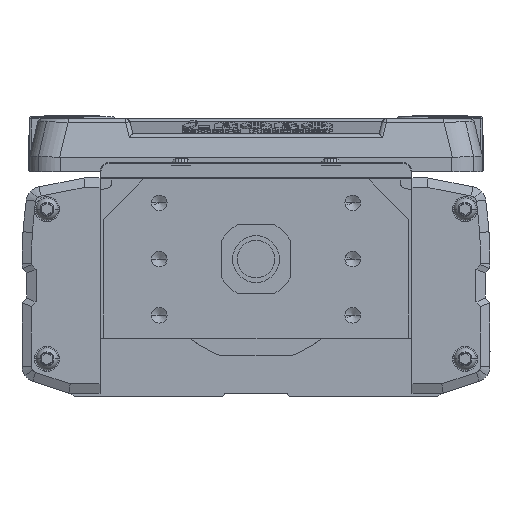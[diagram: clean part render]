
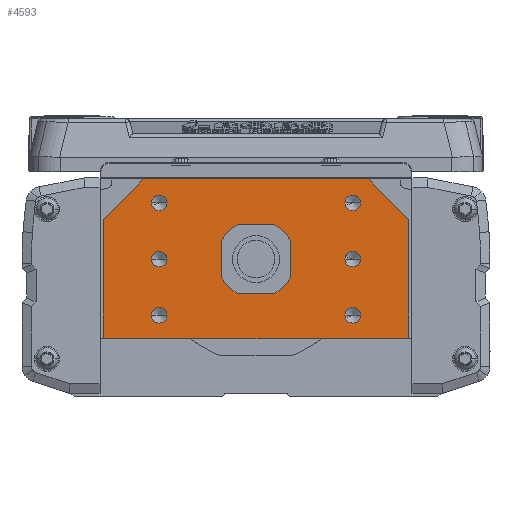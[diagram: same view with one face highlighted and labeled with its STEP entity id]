
A CAD part, left-side view. The second image highlights one B-rep face of the part: STEP entity #4593.
In plain terms, the highlighted planar face has unit normal (-1, 0, 0).
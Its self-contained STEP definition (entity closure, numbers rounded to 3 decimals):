
#4593=ADVANCED_FACE('',(#10032,#10033,#10034,#10035,#10036,#10037,#10038,#10039),#10040,.F.);
#10032=FACE_OUTER_BOUND('',#17409,.T.);
#10033=FACE_BOUND('',#17410,.T.);
#10034=FACE_BOUND('',#17411,.T.);
#10035=FACE_BOUND('',#17412,.T.);
#10036=FACE_BOUND('',#17413,.T.);
#10037=FACE_BOUND('',#17414,.T.);
#10038=FACE_BOUND('',#17415,.T.);
#10039=FACE_BOUND('',#17416,.T.);
#10040=PLANE('',#17417);
#17409=EDGE_LOOP('',(#30718,#30719,#30720,#30721,#30722,#30723,#30724,#30725));
#17410=EDGE_LOOP('',(#30726,#30727));
#17411=EDGE_LOOP('',(#30728,#30729));
#17412=EDGE_LOOP('',(#30730,#30731));
#17413=EDGE_LOOP('',(#30732,#30733));
#17414=EDGE_LOOP('',(#30734,#30735));
#17415=EDGE_LOOP('',(#30736,#30737));
#17416=EDGE_LOOP('',(#30738,#30739));
#17417=AXIS2_PLACEMENT_3D('',#30740,#30741,#30742);
#30718=ORIENTED_EDGE('',*,*,#43866,.F.);
#30719=ORIENTED_EDGE('',*,*,#38693,.F.);
#30720=ORIENTED_EDGE('',*,*,#43867,.F.);
#30721=ORIENTED_EDGE('',*,*,#42636,.F.);
#30722=ORIENTED_EDGE('',*,*,#42517,.F.);
#30723=ORIENTED_EDGE('',*,*,#43868,.F.);
#30724=ORIENTED_EDGE('',*,*,#41855,.F.);
#30725=ORIENTED_EDGE('',*,*,#43869,.F.);
#30726=ORIENTED_EDGE('',*,*,#43870,.T.);
#30727=ORIENTED_EDGE('',*,*,#43871,.T.);
#30728=ORIENTED_EDGE('',*,*,#43872,.T.);
#30729=ORIENTED_EDGE('',*,*,#43873,.T.);
#30730=ORIENTED_EDGE('',*,*,#40859,.T.);
#30731=ORIENTED_EDGE('',*,*,#40679,.T.);
#30732=ORIENTED_EDGE('',*,*,#43492,.T.);
#30733=ORIENTED_EDGE('',*,*,#43874,.T.);
#30734=ORIENTED_EDGE('',*,*,#42189,.T.);
#30735=ORIENTED_EDGE('',*,*,#43875,.T.);
#30736=ORIENTED_EDGE('',*,*,#43876,.T.);
#30737=ORIENTED_EDGE('',*,*,#43298,.T.);
#30738=ORIENTED_EDGE('',*,*,#39034,.F.);
#30739=ORIENTED_EDGE('',*,*,#43409,.F.);
#30740=CARTESIAN_POINT('',(0.,0.275,-2.548));
#30741=DIRECTION('',(1.0,0.,0.));
#30742=DIRECTION('',(0.,1.0,0.));
#38693=EDGE_CURVE('',#45807,#45803,#45809,.T.);
#39034=EDGE_CURVE('',#46422,#46417,#46424,.F.);
#40679=EDGE_CURVE('',#49245,#49243,#49246,.T.);
#40859=EDGE_CURVE('',#49243,#49245,#49546,.T.);
#41855=EDGE_CURVE('',#51143,#51144,#51145,.T.);
#42189=EDGE_CURVE('',#51639,#51641,#51643,.T.);
#42517=EDGE_CURVE('',#52117,#52119,#52120,.T.);
#42636=EDGE_CURVE('',#52119,#52282,#52283,.T.);
#43298=EDGE_CURVE('',#53200,#53198,#53201,.T.);
#43409=EDGE_CURVE('',#46417,#46422,#53350,.F.);
#43492=EDGE_CURVE('',#53464,#53466,#53468,.T.);
#43866=EDGE_CURVE('',#45803,#53967,#53968,.T.);
#43867=EDGE_CURVE('',#52282,#45807,#53969,.T.);
#43868=EDGE_CURVE('',#51144,#52117,#53970,.T.);
#43869=EDGE_CURVE('',#53967,#51143,#53971,.T.);
#43870=EDGE_CURVE('',#53972,#53973,#53974,.T.);
#43871=EDGE_CURVE('',#53973,#53972,#53975,.T.);
#43872=EDGE_CURVE('',#53976,#53977,#53978,.T.);
#43873=EDGE_CURVE('',#53977,#53976,#53979,.T.);
#43874=EDGE_CURVE('',#53466,#53464,#53980,.T.);
#43875=EDGE_CURVE('',#51641,#51639,#53981,.T.);
#43876=EDGE_CURVE('',#53198,#53200,#53982,.T.);
#45803=VERTEX_POINT('',#56201);
#45807=VERTEX_POINT('',#56207);
#45809=LINE('',#56210,#56211);
#46417=VERTEX_POINT('',#57033);
#46422=VERTEX_POINT('',#57039);
#46424=CIRCLE('',#57042,7.5);
#49243=VERTEX_POINT('',#61349);
#49245=VERTEX_POINT('',#61352);
#49246=CIRCLE('',#61353,2.5);
#49546=CIRCLE('',#61778,2.5);
#51143=VERTEX_POINT('',#63970);
#51144=VERTEX_POINT('',#63971);
#51145=LINE('',#63972,#63973);
#51639=VERTEX_POINT('',#64653);
#51641=VERTEX_POINT('',#64656);
#51643=CIRCLE('',#64659,2.5);
#52117=VERTEX_POINT('',#65342);
#52119=VERTEX_POINT('',#65345);
#52120=LINE('',#65346,#65347);
#52282=VERTEX_POINT('',#65615);
#52283=LINE('',#65616,#65617);
#53198=VERTEX_POINT('',#66961);
#53200=VERTEX_POINT('',#66964);
#53201=CIRCLE('',#66965,2.5);
#53350=CIRCLE('',#67169,7.5);
#53464=VERTEX_POINT('',#67318);
#53466=VERTEX_POINT('',#67321);
#53468=CIRCLE('',#67324,2.5);
#53967=VERTEX_POINT('',#67970);
#53968=LINE('',#67971,#67972);
#53969=LINE('',#67973,#67974);
#53970=LINE('',#67975,#67976);
#53971=LINE('',#67977,#67978);
#53972=VERTEX_POINT('',#67979);
#53973=VERTEX_POINT('',#67980);
#53974=CIRCLE('',#67981,2.5);
#53975=CIRCLE('',#67982,2.5);
#53976=VERTEX_POINT('',#67983);
#53977=VERTEX_POINT('',#67984);
#53978=CIRCLE('',#67985,2.5);
#53979=CIRCLE('',#67986,2.5);
#53980=CIRCLE('',#67987,2.5);
#53981=CIRCLE('',#67988,2.5);
#53982=CIRCLE('',#67989,2.5);
#56201=CARTESIAN_POINT('',(0.,49.,12.7));
#56207=CARTESIAN_POINT('',(0.,49.,-25.));
#56210=CARTESIAN_POINT('',(0.,49.,-25.));
#56211=VECTOR('',#70919,10.0);
#57033=CARTESIAN_POINT('',(0.,-7.5,0.));
#57039=CARTESIAN_POINT('',(0.,7.5,0.));
#57042=AXIS2_PLACEMENT_3D('',#71398,#71399,#71400);
#61349=CARTESIAN_POINT('',(0.,33.5,18.));
#61352=CARTESIAN_POINT('',(0.,28.5,18.));
#61353=AXIS2_PLACEMENT_3D('',#73595,#73596,#73597);
#61778=AXIS2_PLACEMENT_3D('',#73830,#73831,#73832);
#63970=CARTESIAN_POINT('',(0.,-36.,25.7));
#63971=CARTESIAN_POINT('',(0.,-49.,12.7));
#63972=CARTESIAN_POINT('',(0.,-37.243,24.457));
#63973=VECTOR('',#75294,10.0);
#64653=CARTESIAN_POINT('',(0.,33.5,0.));
#64656=CARTESIAN_POINT('',(0.,28.5,0.));
#64659=AXIS2_PLACEMENT_3D('',#75703,#75704,#75705);
#65342=CARTESIAN_POINT('',(0.,-49.,-25.));
#65345=CARTESIAN_POINT('',(0.,-48.5,-25.5));
#65346=CARTESIAN_POINT('',(0.,-49.,-25.));
#65347=VECTOR('',#76169,10.0);
#65615=CARTESIAN_POINT('',(0.,48.5,-25.5));
#65616=CARTESIAN_POINT('',(0.,0.,-25.5));
#65617=VECTOR('',#76309,10.0);
#66961=CARTESIAN_POINT('',(0.,-33.5,0.));
#66964=CARTESIAN_POINT('',(0.,-28.5,0.));
#66965=AXIS2_PLACEMENT_3D('',#77117,#77118,#77119);
#67169=AXIS2_PLACEMENT_3D('',#77253,#77254,#77255);
#67318=CARTESIAN_POINT('',(0.,-33.5,18.));
#67321=CARTESIAN_POINT('',(0.,-28.5,18.));
#67324=AXIS2_PLACEMENT_3D('',#77359,#77360,#77361);
#67970=CARTESIAN_POINT('',(0.,36.,25.7));
#67971=CARTESIAN_POINT('',(0.,37.381,24.319));
#67972=VECTOR('',#77903,10.);
#67973=CARTESIAN_POINT('',(0.,48.5,-25.5));
#67974=VECTOR('',#77904,10.0);
#67975=CARTESIAN_POINT('',(0.,-49.,-14.));
#67976=VECTOR('',#77905,10.0);
#67977=CARTESIAN_POINT('',(0.,34.5,25.7));
#67978=VECTOR('',#77906,10.0);
#67979=CARTESIAN_POINT('',(0.,33.5,-18.));
#67980=CARTESIAN_POINT('',(0.,28.5,-18.));
#67981=AXIS2_PLACEMENT_3D('',#77907,#77908,#77909);
#67982=AXIS2_PLACEMENT_3D('',#77910,#77911,#77912);
#67983=CARTESIAN_POINT('',(0.,-33.5,-18.));
#67984=CARTESIAN_POINT('',(0.,-28.5,-18.));
#67985=AXIS2_PLACEMENT_3D('',#77913,#77914,#77915);
#67986=AXIS2_PLACEMENT_3D('',#77916,#77917,#77918);
#67987=AXIS2_PLACEMENT_3D('',#77919,#77920,#77921);
#67988=AXIS2_PLACEMENT_3D('',#77922,#77923,#77924);
#67989=AXIS2_PLACEMENT_3D('',#77925,#77926,#77927);
#70919=DIRECTION('',(0.,0.,1.0));
#71398=CARTESIAN_POINT('',(0.,0.,0.));
#71399=DIRECTION('',(1.0,0.,0.));
#71400=DIRECTION('',(0.,-1.0,0.));
#73595=CARTESIAN_POINT('',(0.,31.,18.));
#73596=DIRECTION('',(1.0,0.,0.));
#73597=DIRECTION('',(0.,1.0,0.));
#73830=CARTESIAN_POINT('',(0.,31.,18.));
#73831=DIRECTION('',(1.0,0.,0.));
#73832=DIRECTION('',(0.,1.0,0.));
#75294=DIRECTION('',(0.,-0.707,-0.707));
#75703=CARTESIAN_POINT('',(0.,31.,0.));
#75704=DIRECTION('',(1.0,0.,0.));
#75705=DIRECTION('',(0.,1.0,0.));
#76169=DIRECTION('',(0.,0.707,-0.707));
#76309=DIRECTION('',(0.,1.0,0.));
#77117=CARTESIAN_POINT('',(0.,-31.,0.));
#77118=DIRECTION('',(1.0,0.,0.));
#77119=DIRECTION('',(0.,-1.0,0.));
#77253=CARTESIAN_POINT('',(0.,0.,0.));
#77254=DIRECTION('',(1.0,0.,0.));
#77255=DIRECTION('',(0.,-1.0,0.));
#77359=CARTESIAN_POINT('',(0.,-31.,18.));
#77360=DIRECTION('',(1.0,0.,0.));
#77361=DIRECTION('',(0.,-1.0,0.));
#77903=DIRECTION('',(0.,-0.707,0.707));
#77904=DIRECTION('',(0.,0.707,0.707));
#77905=DIRECTION('',(0.,0.,-1.0));
#77906=DIRECTION('',(0.,-1.0,0.));
#77907=CARTESIAN_POINT('',(0.,31.,-18.));
#77908=DIRECTION('',(1.0,0.,0.));
#77909=DIRECTION('',(0.,1.0,0.));
#77910=CARTESIAN_POINT('',(0.,31.,-18.));
#77911=DIRECTION('',(1.0,0.,0.));
#77912=DIRECTION('',(0.,1.0,0.));
#77913=CARTESIAN_POINT('',(0.,-31.,-18.));
#77914=DIRECTION('',(1.0,0.,0.));
#77915=DIRECTION('',(0.,-1.0,0.));
#77916=CARTESIAN_POINT('',(0.,-31.,-18.));
#77917=DIRECTION('',(1.0,0.,0.));
#77918=DIRECTION('',(0.,-1.0,0.));
#77919=CARTESIAN_POINT('',(0.,-31.,18.));
#77920=DIRECTION('',(1.0,0.,0.));
#77921=DIRECTION('',(0.,-1.0,0.));
#77922=CARTESIAN_POINT('',(0.,31.,0.));
#77923=DIRECTION('',(1.0,0.,0.));
#77924=DIRECTION('',(0.,1.0,0.));
#77925=CARTESIAN_POINT('',(0.,-31.,0.));
#77926=DIRECTION('',(1.0,0.,0.));
#77927=DIRECTION('',(0.,-1.0,0.));
